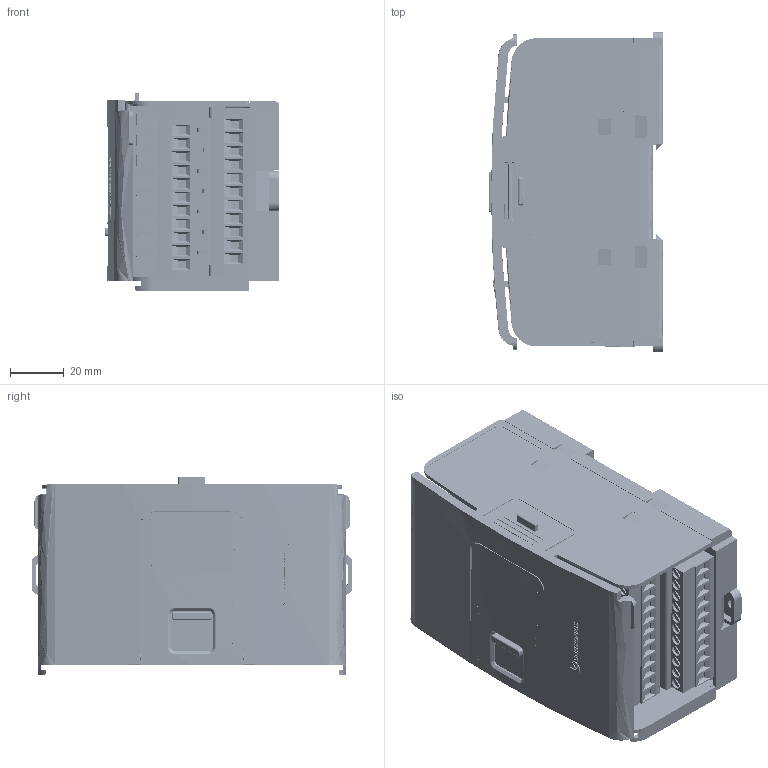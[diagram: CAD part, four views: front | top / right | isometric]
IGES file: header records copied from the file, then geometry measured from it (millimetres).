
Start section: SolidWorks IGES file using analytic representation for surfaces
Global section: file name: D:\Project\UniStream\CAD Files\3D\IGES\Uni-IO (wide).IGS; native system: SolidWorks 2011; preprocessor: SolidWorks 2011; author: baraki; date: 141020.141556; units: millimetre
Bounding box: 65.04 x 119.46 x 74.1 mm (x, y, z)
Surface area: 129093.4 mm2 (no closed solid volume)
Topology: 0 solids, 0 shells, 3575 faces, 31457 edges, 31446 vertices
Faces by surface type: bspline 2768, revolution 807
